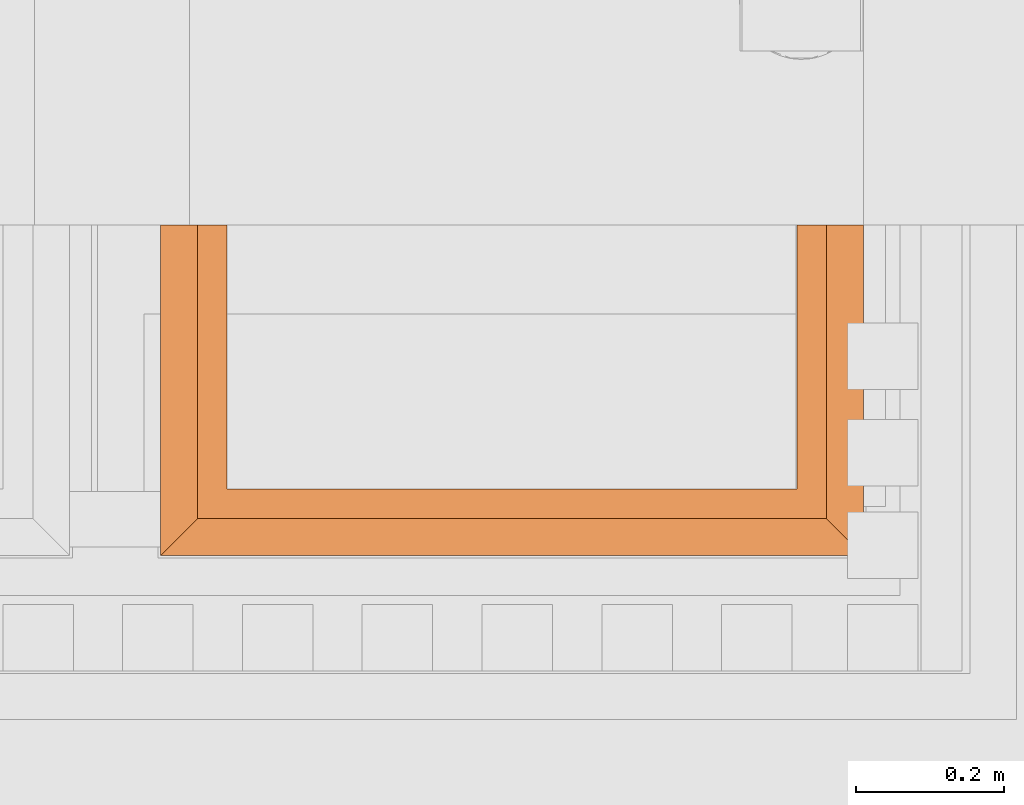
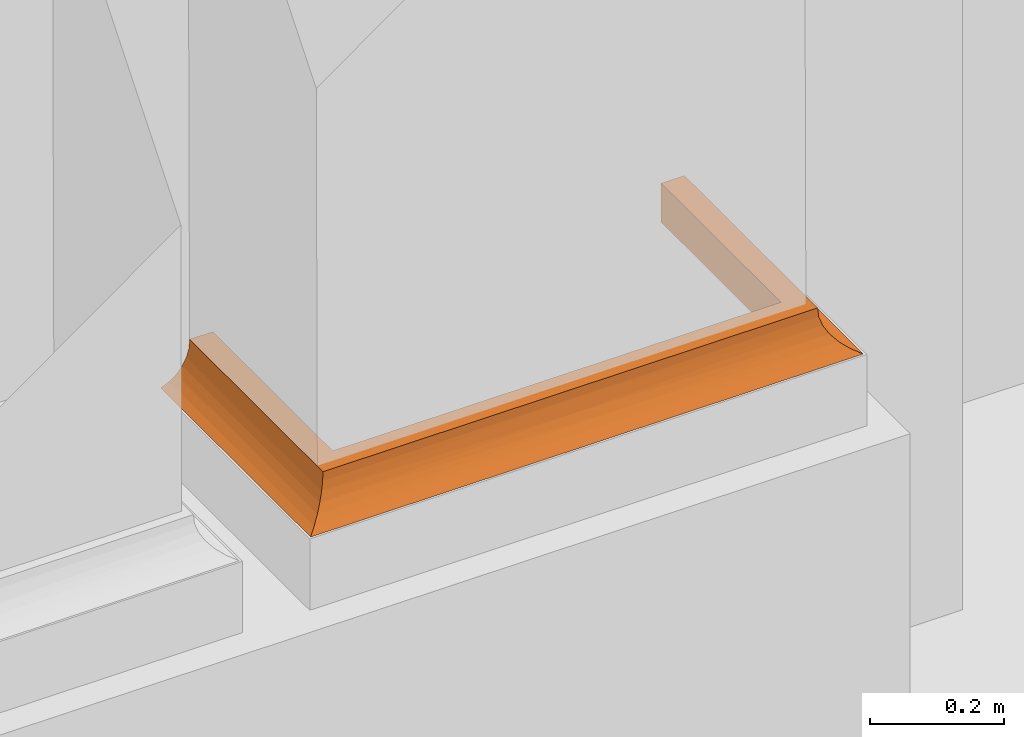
# One storey, part 25 of 44: 1 proxy.
"""IFC2X3 building model written with IfcOpenShell, lengths in metres."""

from ifc_helpers import new_model, entity, si_unit, converted_unit, derived_unit, direction, frame, origin, place, context, subcontext, project, spatial, faceted_brep, element, save


model = new_model("IFC2X3")

# Units and contexts
model_context = context("Model", 3, precision=1e-05, world=origin(), true_north=direction((6.12303176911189e-17, 1.0)))
body_context = subcontext(model_context, "Body", "Model", "MODEL_VIEW")
ifc_project = project(units=[si_unit("LENGTHUNIT", "METRE"), si_unit("AREAUNIT", "SQUARE_METRE"), si_unit("VOLUMEUNIT", "CUBIC_METRE"), converted_unit("PLANEANGLEUNIT", "DEGREE", entity("IfcRatioMeasure", 0.0174532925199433), si_unit("PLANEANGLEUNIT", "RADIAN"), dimensions=[0, 0, 0, 0, 0, 0, 0]), si_unit("MASSUNIT", "GRAM", prefix="KILO"), derived_unit("MASSDENSITYUNIT", [(si_unit("MASSUNIT", "GRAM", prefix="KILO"), 1), (si_unit("LENGTHUNIT", "METRE"), -3)]), si_unit("TIMEUNIT", "SECOND"), si_unit("FREQUENCYUNIT", "HERTZ"), si_unit("THERMODYNAMICTEMPERATUREUNIT", "DEGREE_CELSIUS"), derived_unit("THERMALTRANSMITTANCEUNIT", [(si_unit("MASSUNIT", "GRAM", prefix="KILO"), 1), (si_unit("THERMODYNAMICTEMPERATUREUNIT", "KELVIN"), -1), (si_unit("TIMEUNIT", "SECOND"), -3)]), derived_unit("VOLUMETRICFLOWRATEUNIT", [(si_unit("LENGTHUNIT", "METRE"), 3), (si_unit("TIMEUNIT", "SECOND"), -1)]), si_unit("ELECTRICCURRENTUNIT", "AMPERE"), si_unit("ELECTRICVOLTAGEUNIT", "VOLT"), si_unit("POWERUNIT", "WATT"), si_unit("FORCEUNIT", "NEWTON", prefix="KILO"), si_unit("ILLUMINANCEUNIT", "LUX"), si_unit("LUMINOUSFLUXUNIT", "LUMEN"), si_unit("LUMINOUSINTENSITYUNIT", "CANDELA"), derived_unit("USERDEFINED", [(si_unit("MASSUNIT", "GRAM", prefix="KILO"), -1), (si_unit("LENGTHUNIT", "METRE"), -2), (si_unit("TIMEUNIT", "SECOND"), 3), (si_unit("LUMINOUSFLUXUNIT", "LUMEN"), 1)]), derived_unit("LINEARVELOCITYUNIT", [(si_unit("LENGTHUNIT", "METRE"), 1), (si_unit("TIMEUNIT", "SECOND"), -1)]), si_unit("PRESSUREUNIT", "PASCAL"), derived_unit("USERDEFINED", [(si_unit("LENGTHUNIT", "METRE"), -2), (si_unit("MASSUNIT", "GRAM", prefix="KILO"), 1), (si_unit("TIMEUNIT", "SECOND"), -2)])], contexts=[model_context])

# Site, building, storey
site_placement = place(None, origin())
site = spatial("IfcSite", under=ifc_project, at=site_placement, Name="Default", CompositionType="ELEMENT")
building_placement = place(site_placement, origin())
building = spatial("IfcBuilding", under=site, at=building_placement, CompositionType="ELEMENT")
storey_placement = place(building_placement, origin())
storey = spatial("IfcBuildingStorey", under=building, at=storey_placement, Name="Livello 1", CompositionType="ELEMENT", Elevation=0.0)

# Proxy
proxy_placement = place(storey_placement, frame((-10.4331900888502, 0.81541504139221, 14.0972913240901)))
element("IfcBuildingElementProxy", 1, at=proxy_placement, inside=storey, Name="Stratigrafia", context=body_context, shape_type="Brep", body=[
    faceted_brep([(0.860981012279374, 0.447957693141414, 0.0015952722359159), (0.860981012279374, 0.447957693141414, 0.0725246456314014), (0.900981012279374, 0.447957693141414, 0.0725246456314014), (0.90198435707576, 0.447957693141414, 0.057057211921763), (0.906320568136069, 0.447957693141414, 0.0421761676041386), (0.913782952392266, 0.447957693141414, 0.028590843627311), (0.924015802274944, 0.447957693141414, 0.0169488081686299), (0.936531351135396, 0.447957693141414, 0.00780499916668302), (0.950733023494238, 0.447957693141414, 0.0015952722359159), (0.0015952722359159, 0.447957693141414, 0.0015952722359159), (0.0157969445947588, 0.447957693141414, 0.00780499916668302), (0.0283124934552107, 0.447957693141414, 0.0169488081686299), (0.038545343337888, 0.447957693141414, 0.028590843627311), (0.0460077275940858, 0.447957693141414, 0.0421761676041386), (0.0503439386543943, 0.447957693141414, 0.057057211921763), (0.0513472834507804, 0.447957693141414, 0.0725246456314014), (0.0913472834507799, 0.447957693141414, 0.0725246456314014), (0.0913472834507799, 0.447957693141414, 0.0015952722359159), (0.90198435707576, 0.0503439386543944, 0.057057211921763), (0.906320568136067, 0.0460077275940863, 0.0421761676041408), (0.913782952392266, 0.0385453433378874, 0.028590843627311), (0.900981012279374, 0.0513472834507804, 0.0725246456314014), (0.924015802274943, 0.0283124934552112, 0.0169488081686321), (0.936531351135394, 0.0157969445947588, 0.00780499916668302), (0.950733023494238, 0.00159527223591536, 0.0015952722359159), (0.590003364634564, 0.00159527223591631, 0.0015952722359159), (0.0015952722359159, 0.00159527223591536, 0.0015952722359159), (0.0913472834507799, 0.0913472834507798, 0.0015952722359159), (0.860981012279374, 0.0913472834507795, 0.0015952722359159), (0.860981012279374, 0.0913472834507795, 0.0725246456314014), (0.0513472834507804, 0.0513472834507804, 0.0725246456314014), (0.312572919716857, 0.0513472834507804, 0.0725246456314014), (0.0913472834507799, 0.0913472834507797, 0.0725246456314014), (0.572423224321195, 0.0334274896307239, 0.0221280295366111), (0.0157969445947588, 0.0157969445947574, 0.00780499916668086), (0.476164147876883, 0.0424788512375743, 0.0348723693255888), (0.0503439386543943, 0.0503439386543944, 0.057057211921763), (0.476164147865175, 0.0502370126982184, 0.0564642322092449), (0.476164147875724, 0.0218065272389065, 0.0116734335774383), (0.0460077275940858, 0.0460077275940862, 0.0421761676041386), (0.0283124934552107, 0.0283124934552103, 0.0169488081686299), (0.038545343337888, 0.0385453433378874, 0.028590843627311)], [[[0, 1, 2, 3, 4, 5, 6, 7, 8]], [[9, 10, 11, 12, 13, 14, 15, 16, 17]], [[4, 3, 18, 19]], [[5, 4, 19, 20]], [[21, 18, 3, 2]], [[7, 6, 22, 23]], [[8, 7, 23, 24]], [[6, 5, 20, 22]], [[0, 8, 24, 25, 26, 9, 17, 27, 28]], [[1, 0, 28, 29]], [[16, 15, 30, 31, 21, 2, 1, 29, 32]], [[33, 22, 20]], [[25, 34, 26]], [[23, 25, 24]], [[19, 35, 20]], [[31, 36, 37]], [[31, 37, 21]], [[23, 38, 25]], [[18, 21, 37]], [[39, 37, 36]], [[38, 40, 34]], [[18, 37, 19]], [[37, 35, 19]], [[35, 37, 39]], [[35, 33, 20]], [[38, 34, 25]], [[36, 31, 30]], [[41, 40, 33]], [[38, 33, 40]], [[41, 33, 35]], [[38, 23, 22]], [[35, 39, 41]], [[38, 22, 33]], [[29, 28, 27, 32]], [[12, 41, 39, 13]], [[13, 39, 36, 14]], [[14, 36, 30, 15]], [[9, 26, 34, 10]], [[10, 34, 40, 11]], [[12, 11, 40, 41]], [[32, 27, 17, 16]]]),
])

save(model, "model.ifc")
